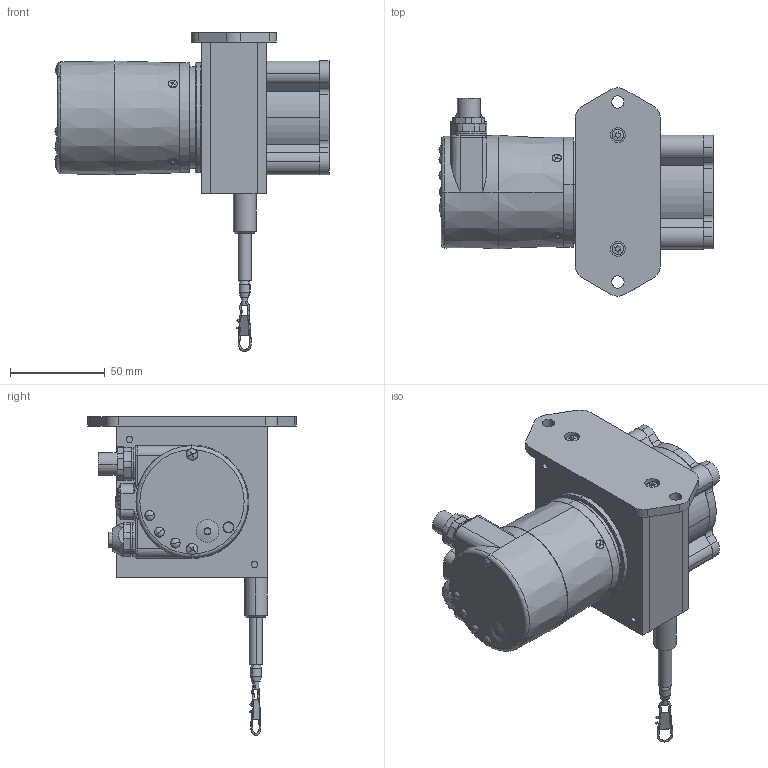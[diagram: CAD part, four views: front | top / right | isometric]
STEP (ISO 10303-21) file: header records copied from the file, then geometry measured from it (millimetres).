
FILE_DESCRIPTION (( 'STEP AP214' ), '1' );
FILE_NAME ('D8.4B1.0300.6822.2113.STEP', '2009-05-12T07:44:57', ( 'admin' ), ( 'Fritz Kübler GmbH' ), 'SwSTEP 2.0', 'SolidWorks 2009', '' );
FILE_SCHEMA (( 'AUTOMOTIVE_DESIGN' ));
Length unit declared in the file: millimetre
Products named in the file (1): D8.4B1.0300.6822.2113
Bounding box: 144.65 x 110 x 168.32 mm (x, y, z)
Volume: 228949.8 mm3; surface area: 143837.7 mm2
Topology: 32 solids, 32 shells, 1574 faces, 3824 edges, 2354 vertices
Faces by surface type: cylinder 606, plane 511, cone 251, torus 125, bspline 46, sphere 35
Entity records: 67105 total; most frequent: CARTESIAN_POINT 12229, DIRECTION 8176, ORIENTED_EDGE 7516, EDGE_CURVE 3758, AXIS2_PLACEMENT_3D 3272, VERTEX_POINT 2353, EDGE_LOOP 1785, CIRCLE 1743
